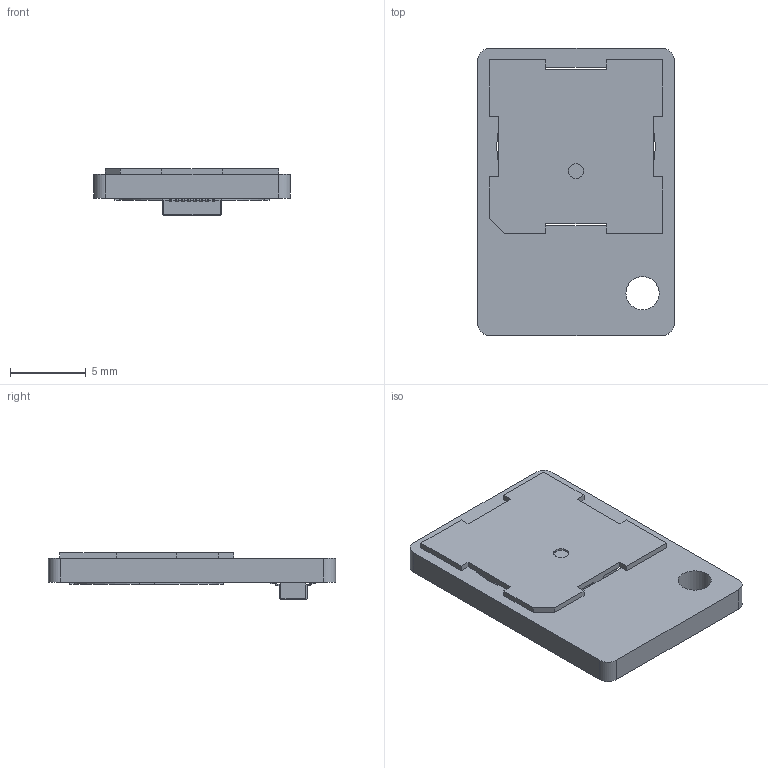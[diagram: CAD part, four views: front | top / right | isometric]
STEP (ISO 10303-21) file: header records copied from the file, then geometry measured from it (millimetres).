
FILE_DESCRIPTION (( 'STEP AP214' ), '1' );
FILE_NAME ('891-200.STEP', '2026-08-14T00:12:25', ( '' ), ( '' ), 'SwSTEP 2.0', 'SolidWorks 2020', '' );
FILE_SCHEMA (( 'AUTOMOTIVE_DESIGN' ));
Length unit declared in the file: millimetre
Products named in the file (5): bare sensor 10x10 no filter; DF40C-12DP; DGS410 base board; DGS410 baseboard with connector; 891-200
Assembly tree (4 placements, depth 3):
  891-200
    DGS410 baseboard with connector
      DGS410 base board
      DF40C-12DP
    bare sensor 10x10 no filter
Bounding box: 13 x 19 x 3.1 mm (x, y, z)
Volume: 416.3 mm3; surface area: 850.3 mm2
Topology: 3 solids, 3 shells, 350 faces, 998 edges, 664 vertices
Faces by surface type: plane 252, cylinder 98
Full cylindrical faces by diameter (mm): 0.457 x12, 1 x1, 2.2 x1
Entity records: 12352 total; most frequent: CARTESIAN_POINT 2166, ORIENTED_EDGE 1968, DIRECTION 1880, EDGE_CURVE 984, LINE 788, VECTOR 788, VERTEX_POINT 664, AXIS2_PLACEMENT_3D 546
